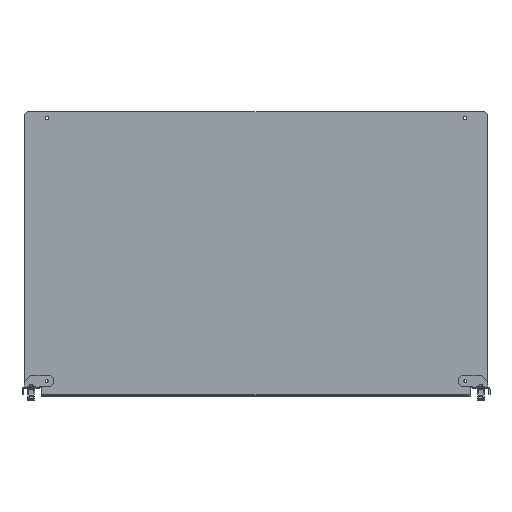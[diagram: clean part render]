
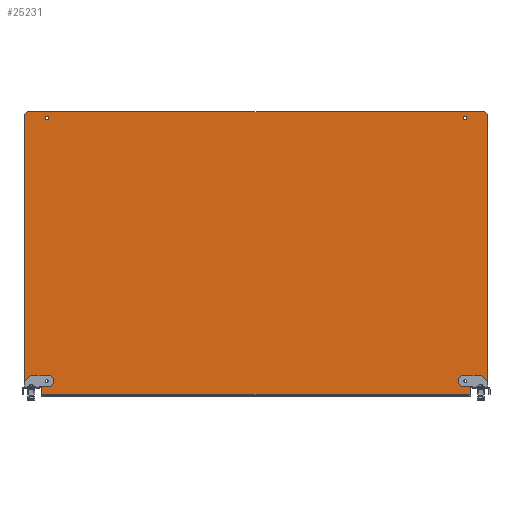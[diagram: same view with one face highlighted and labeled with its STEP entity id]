
A CAD part, top view. The second image highlights one B-rep face of the part: STEP entity #25231.
In plain terms, the highlighted planar face has unit normal (0, 0, 1).
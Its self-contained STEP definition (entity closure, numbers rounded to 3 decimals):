
#22926=CARTESIAN_POINT(' ',(343.25,-205.,0.));
#22927=VERTEX_POINT(' ',#22926);
#23001=CARTESIAN_POINT(' ',(340.25,-208.,0.));
#23002=VERTEX_POINT(' ',#23001);
#23016=CARTESIAN_POINT(' ',(340.25,-205.,0.));
#23021=DIRECTION(' ',(0.,-0.,1.));
#23026=DIRECTION(' ',(0.,-1.,0.));
#23031=AXIS2_PLACEMENT_3D(' ',#23016,#23021,#23026);
#23036=CIRCLE('',#23031,3.);
#23041=EDGE_CURVE(' ',#23002,#22927,#23036,.T.);
#23136=CARTESIAN_POINT(' ',(340.25,-205.,0.));
#23141=DIRECTION(' ',(0.,0.,1.));
#23146=DIRECTION(' ',(1.,0.,0.));
#23151=AXIS2_PLACEMENT_3D(' ',#23136,#23141,#23146);
#23156=CIRCLE('',#23151,3.);
#23161=CARTESIAN_POINT(' ',(340.25,-202.,0.));
#23162=VERTEX_POINT(' ',#23161);
#23166=EDGE_CURVE(' ',#22927,#23162,#23156,.T.);
#24211=CARTESIAN_POINT(' ',(334.25,-208.,0.));
#24216=DIRECTION(' ',(1.,0.,0.));
#24221=VECTOR(' ',#24216,1.);
#24226=LINE('',#24211,#24221);
#24231=CARTESIAN_POINT(' ',(334.25,-208.,0.));
#24232=VERTEX_POINT(' ',#24231);
#24236=EDGE_CURVE(' ',#24232,#23002,#24226,.T.);
#24301=DIRECTION(' ',(-0.,-0.,1.));
#24306=CARTESIAN_POINT(' ',(373.,-227.4,0.));
#24311=DIRECTION(' ',(0.,1.,0.));
#24316=AXIS2_PLACEMENT_3D(' ',#24306,#24301,#24311);
#24321=PLANE('NONE',#24316);
#24326=CARTESIAN_POINT(' ',(346.,-215.,0.));
#24331=DIRECTION(' ',(1.,0.,0.));
#24336=VECTOR(' ',#24331,1.);
#24341=LINE('',#24326,#24336);
#24346=CARTESIAN_POINT(' ',(346.,-215.,0.));
#24347=VERTEX_POINT(' ',#24346);
#24351=CARTESIAN_POINT(' ',(368.,-215.,0.));
#24352=VERTEX_POINT(' ',#24351);
#24356=EDGE_CURVE(' ',#24347,#24352,#24341,.T.);
#24361=ORIENTED_EDGE(' ',*,*,#24356,.T.);
#24366=CARTESIAN_POINT(' ',(368.,-215.,0.));
#24371=DIRECTION(' ',(0.707,0.707,0.));
#24376=VECTOR(' ',#24371,1.);
#24381=LINE('',#24366,#24376);
#24386=CARTESIAN_POINT(' ',(373.,-210.,0.));
#24387=VERTEX_POINT(' ',#24386);
#24391=EDGE_CURVE(' ',#24352,#24387,#24381,.T.);
#24396=ORIENTED_EDGE(' ',*,*,#24391,.T.);
#24401=CARTESIAN_POINT(' ',(373.,-210.,0.));
#24406=DIRECTION(' ',(0.,1.,0.));
#24411=VECTOR(' ',#24406,1.);
#24416=LINE('',#24401,#24411);
#24421=CARTESIAN_POINT(' ',(373.,224.5,0.));
#24422=VERTEX_POINT(' ',#24421);
#24426=EDGE_CURVE(' ',#24387,#24422,#24416,.T.);
#24431=ORIENTED_EDGE(' ',*,*,#24426,.T.);
#24436=CARTESIAN_POINT(' ',(373.,224.5,0.));
#24441=DIRECTION(' ',(-0.707,0.707,0.));
#24446=VECTOR(' ',#24441,1.);
#24451=LINE('',#24436,#24446);
#24456=CARTESIAN_POINT(' ',(368.,229.5,0.));
#24457=VERTEX_POINT(' ',#24456);
#24461=EDGE_CURVE(' ',#24422,#24457,#24451,.T.);
#24466=ORIENTED_EDGE(' ',*,*,#24461,.T.);
#24471=CARTESIAN_POINT(' ',(368.,229.5,0.));
#24476=DIRECTION(' ',(-1.,0.,0.));
#24481=VECTOR(' ',#24476,1.);
#24486=LINE('',#24471,#24481);
#24491=CARTESIAN_POINT(' ',(-368.,229.5,0.));
#24492=VERTEX_POINT(' ',#24491);
#24496=EDGE_CURVE(' ',#24457,#24492,#24486,.T.);
#24501=ORIENTED_EDGE(' ',*,*,#24496,.T.);
#24506=CARTESIAN_POINT(' ',(-368.,229.5,0.));
#24511=DIRECTION(' ',(-0.707,-0.707,0.));
#24516=VECTOR(' ',#24511,1.);
#24521=LINE('',#24506,#24516);
#24526=CARTESIAN_POINT(' ',(-373.,224.5,0.));
#24527=VERTEX_POINT(' ',#24526);
#24531=EDGE_CURVE(' ',#24492,#24527,#24521,.T.);
#24536=ORIENTED_EDGE(' ',*,*,#24531,.T.);
#24541=CARTESIAN_POINT(' ',(-373.,224.5,0.));
#24546=DIRECTION(' ',(0.,-1.,0.));
#24551=VECTOR(' ',#24546,1.);
#24556=LINE('',#24541,#24551);
#24561=CARTESIAN_POINT(' ',(-373.,-210.,0.));
#24562=VERTEX_POINT(' ',#24561);
#24566=EDGE_CURVE(' ',#24527,#24562,#24556,.T.);
#24571=ORIENTED_EDGE(' ',*,*,#24566,.T.);
#24576=CARTESIAN_POINT(' ',(-373.,-210.,0.));
#24581=DIRECTION(' ',(0.707,-0.707,0.));
#24586=VECTOR(' ',#24581,1.);
#24591=LINE('',#24576,#24586);
#24596=CARTESIAN_POINT(' ',(-368.,-215.,0.));
#24597=VERTEX_POINT(' ',#24596);
#24601=EDGE_CURVE(' ',#24562,#24597,#24591,.T.);
#24606=ORIENTED_EDGE(' ',*,*,#24601,.T.);
#24611=CARTESIAN_POINT(' ',(-368.,-215.,0.));
#24616=DIRECTION(' ',(1.,0.,0.));
#24621=VECTOR(' ',#24616,1.);
#24626=LINE('',#24611,#24621);
#24631=CARTESIAN_POINT(' ',(-346.,-215.,0.));
#24632=VERTEX_POINT(' ',#24631);
#24636=EDGE_CURVE(' ',#24597,#24632,#24626,.T.);
#24641=ORIENTED_EDGE(' ',*,*,#24636,.T.);
#24646=CARTESIAN_POINT(' ',(-346.,-215.,0.));
#24651=DIRECTION(' ',(0.,-1.,0.));
#24656=VECTOR(' ',#24651,1.);
#24661=LINE('',#24646,#24656);
#24666=CARTESIAN_POINT(' ',(-346.,-227.4,0.));
#24667=VERTEX_POINT(' ',#24666);
#24671=EDGE_CURVE(' ',#24632,#24667,#24661,.T.);
#24676=ORIENTED_EDGE(' ',*,*,#24671,.T.);
#24681=CARTESIAN_POINT(' ',(346.,-227.4,0.));
#24686=DIRECTION(' ',(-1.,0.,0.));
#24691=VECTOR(' ',#24686,1.);
#24696=LINE('',#24681,#24691);
#24701=CARTESIAN_POINT(' ',(346.,-227.4,0.));
#24702=VERTEX_POINT(' ',#24701);
#24706=EDGE_CURVE(' ',#24702,#24667,#24696,.T.);
#24711=ORIENTED_EDGE(' ',*,*,#24706,.F.);
#24716=CARTESIAN_POINT(' ',(346.,-227.4,0.));
#24721=DIRECTION(' ',(0.,1.,0.));
#24726=VECTOR(' ',#24721,1.);
#24731=LINE('',#24716,#24726);
#24736=EDGE_CURVE(' ',#24702,#24347,#24731,.T.);
#24741=ORIENTED_EDGE(' ',*,*,#24736,.T.);
#24746=EDGE_LOOP(' ',(#24361,#24396,#24431,#24466,#24501,#24536,#24571,#24606,#24641,#24676,#24711,#24741));
#24751=FACE_OUTER_BOUND(' ',#24746,.T.);
#24756=ORIENTED_EDGE(' ',*,*,#24236,.F.);
#24761=CARTESIAN_POINT(' ',(334.25,-205.,0.));
#24766=DIRECTION(' ',(0.,0.,1.));
#24771=DIRECTION(' ',(0.,1.,0.));
#24776=AXIS2_PLACEMENT_3D(' ',#24761,#24766,#24771);
#24781=CIRCLE('',#24776,3.);
#24786=CARTESIAN_POINT(' ',(334.25,-202.,0.));
#24787=VERTEX_POINT(' ',#24786);
#24791=EDGE_CURVE(' ',#24787,#24232,#24781,.T.);
#24796=ORIENTED_EDGE(' ',*,*,#24791,.F.);
#24801=CARTESIAN_POINT(' ',(340.25,-202.,0.));
#24806=DIRECTION(' ',(-1.,0.,0.));
#24811=VECTOR(' ',#24806,1.);
#24816=LINE('',#24801,#24811);
#24821=EDGE_CURVE(' ',#23162,#24787,#24816,.T.);
#24826=ORIENTED_EDGE(' ',*,*,#24821,.F.);
#24831=ORIENTED_EDGE(' ',*,*,#23166,.F.);
#24836=ORIENTED_EDGE(' ',*,*,#23041,.F.);
#24841=EDGE_LOOP(' ',(#24756,#24796,#24826,#24831,#24836));
#24846=FACE_BOUND(' ',#24841,.T.);
#24851=CARTESIAN_POINT(' ',(-334.25,-202.,0.));
#24856=DIRECTION(' ',(-1.,0.,0.));
#24861=VECTOR(' ',#24856,1.);
#24866=LINE('',#24851,#24861);
#24871=CARTESIAN_POINT(' ',(-334.25,-202.,0.));
#24872=VERTEX_POINT(' ',#24871);
#24876=CARTESIAN_POINT(' ',(-340.25,-202.,0.));
#24877=VERTEX_POINT(' ',#24876);
#24881=EDGE_CURVE(' ',#24872,#24877,#24866,.T.);
#24886=ORIENTED_EDGE(' ',*,*,#24881,.F.);
#24891=CARTESIAN_POINT(' ',(-334.25,-205.,0.));
#24896=DIRECTION(' ',(0.,0.,1.));
#24901=DIRECTION(' ',(1.,0.,0.));
#24906=AXIS2_PLACEMENT_3D(' ',#24891,#24896,#24901);
#24911=CIRCLE('',#24906,3.);
#24916=CARTESIAN_POINT(' ',(-331.25,-205.,0.));
#24917=VERTEX_POINT(' ',#24916);
#24921=EDGE_CURVE(' ',#24917,#24872,#24911,.T.);
#24926=ORIENTED_EDGE(' ',*,*,#24921,.F.);
#24931=CARTESIAN_POINT(' ',(-334.25,-205.,0.));
#24936=DIRECTION(' ',(0.,-0.,1.));
#24941=DIRECTION(' ',(0.,-1.,0.));
#24946=AXIS2_PLACEMENT_3D(' ',#24931,#24936,#24941);
#24951=CIRCLE('',#24946,3.);
#24956=CARTESIAN_POINT(' ',(-334.25,-208.,0.));
#24957=VERTEX_POINT(' ',#24956);
#24961=EDGE_CURVE(' ',#24957,#24917,#24951,.T.);
#24966=ORIENTED_EDGE(' ',*,*,#24961,.F.);
#24971=CARTESIAN_POINT(' ',(-340.25,-208.,0.));
#24976=DIRECTION(' ',(1.,0.,0.));
#24981=VECTOR(' ',#24976,1.);
#24986=LINE('',#24971,#24981);
#24991=CARTESIAN_POINT(' ',(-340.25,-208.,0.));
#24992=VERTEX_POINT(' ',#24991);
#24996=EDGE_CURVE(' ',#24992,#24957,#24986,.T.);
#25001=ORIENTED_EDGE(' ',*,*,#24996,.F.);
#25006=CARTESIAN_POINT(' ',(-340.25,-205.,0.));
#25011=DIRECTION(' ',(0.,0.,1.));
#25016=DIRECTION(' ',(0.,1.,0.));
#25021=AXIS2_PLACEMENT_3D(' ',#25006,#25011,#25016);
#25026=CIRCLE('',#25021,3.);
#25031=EDGE_CURVE(' ',#24877,#24992,#25026,.T.);
#25036=ORIENTED_EDGE(' ',*,*,#25031,.F.);
#25041=EDGE_LOOP(' ',(#24886,#24926,#24966,#25001,#25036));
#25046=FACE_BOUND(' ',#25041,.T.);
#25051=CARTESIAN_POINT(' ',(-337.25,219.5,0.));
#25056=DIRECTION(' ',(0.,0.,1.));
#25061=DIRECTION(' ',(1.,0.,0.));
#25066=AXIS2_PLACEMENT_3D(' ',#25051,#25056,#25061);
#25071=CIRCLE('',#25066,2.75);
#25076=CARTESIAN_POINT(' ',(-334.5,219.5,0.));
#25077=VERTEX_POINT(' ',#25076);
#25081=CARTESIAN_POINT(' ',(-340.,219.5,0.));
#25082=VERTEX_POINT(' ',#25081);
#25086=EDGE_CURVE(' ',#25077,#25082,#25071,.T.);
#25091=ORIENTED_EDGE(' ',*,*,#25086,.F.);
#25096=CARTESIAN_POINT(' ',(-337.25,219.5,0.));
#25101=DIRECTION(' ',(0.,-0.,1.));
#25106=DIRECTION(' ',(-1.,0.,0.));
#25111=AXIS2_PLACEMENT_3D(' ',#25096,#25101,#25106);
#25116=CIRCLE('',#25111,2.75);
#25121=EDGE_CURVE(' ',#25082,#25077,#25116,.T.);
#25126=ORIENTED_EDGE(' ',*,*,#25121,.F.);
#25131=EDGE_LOOP(' ',(#25091,#25126));
#25136=FACE_BOUND(' ',#25131,.T.);
#25141=CARTESIAN_POINT(' ',(337.25,219.5,0.));
#25146=DIRECTION(' ',(0.,0.,1.));
#25151=DIRECTION(' ',(1.,0.,0.));
#25156=AXIS2_PLACEMENT_3D(' ',#25141,#25146,#25151);
#25161=CIRCLE('',#25156,2.75);
#25166=CARTESIAN_POINT(' ',(340.,219.5,0.));
#25167=VERTEX_POINT(' ',#25166);
#25171=CARTESIAN_POINT(' ',(334.5,219.5,0.));
#25172=VERTEX_POINT(' ',#25171);
#25176=EDGE_CURVE(' ',#25167,#25172,#25161,.T.);
#25181=ORIENTED_EDGE(' ',*,*,#25176,.F.);
#25186=CARTESIAN_POINT(' ',(337.25,219.5,0.));
#25191=DIRECTION(' ',(0.,-0.,1.));
#25196=DIRECTION(' ',(-1.,0.,0.));
#25201=AXIS2_PLACEMENT_3D(' ',#25186,#25191,#25196);
#25206=CIRCLE('',#25201,2.75);
#25211=EDGE_CURVE(' ',#25172,#25167,#25206,.T.);
#25216=ORIENTED_EDGE(' ',*,*,#25211,.F.);
#25221=EDGE_LOOP(' ',(#25181,#25216));
#25226=FACE_BOUND(' ',#25221,.T.);
#25231=ADVANCED_FACE('NONE',(#24751,#24846,#25046,#25136,#25226),#24321,.T.);
